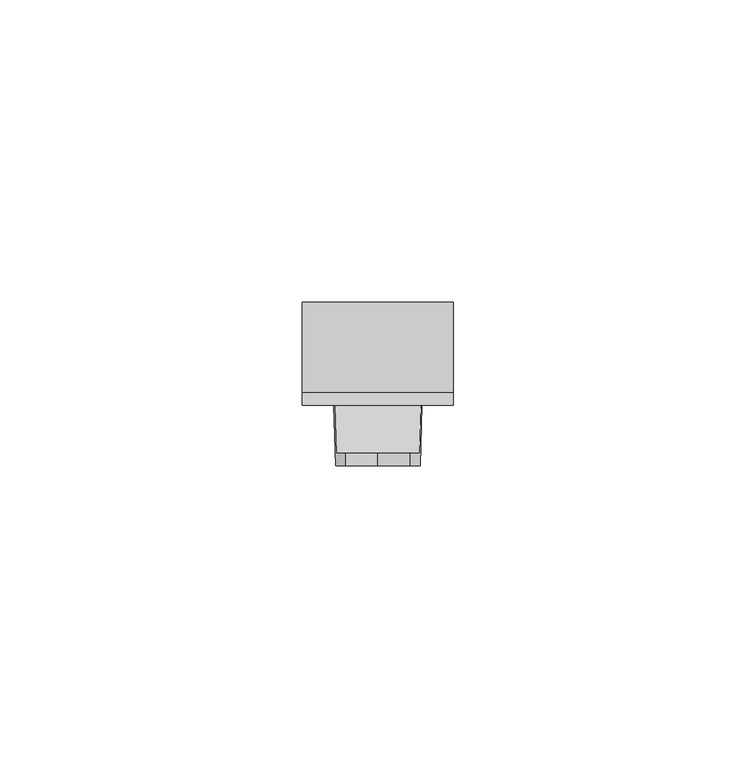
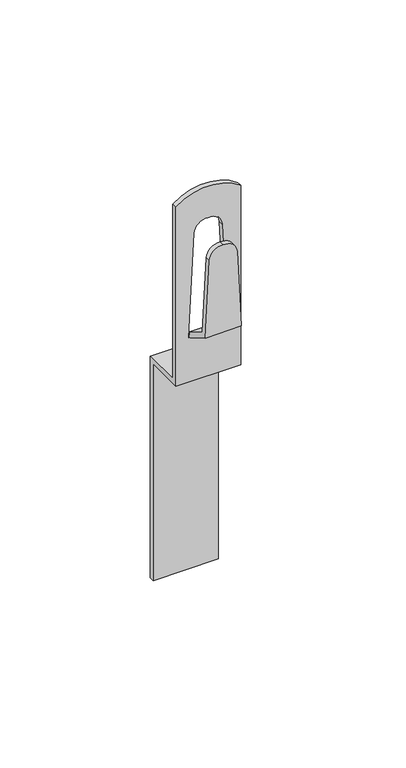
"""IFC4 building model written with IfcOpenShell, lengths in millimetres: proxy geometry, КНС_ДержательПолосыДляКонтураЗаземления _DKC : NE1002_Горячеоцинкованная сталь."""

from ifc_helpers import new_model, si_unit, frame, origin, place, context, project, spatial, polyline, circle_curve, source, transform, mapped, element, save
from ifc_brep_helpers import plane_surface, cylinder_surface, revolved_surface, advanced_brep


def security_devices_b61f97d0(model_context):
    return source(origin(), model_context, "Body", "AdvancedBrep", [
        advanced_brep(
        [(-12.5, 1.0, 160.874537), (12.5, 1.0, 160.874537), (12.5, 1.0, 90.0), (-12.5, 1.0, 90.0), (-5.3645288, 1.0, 147.6660817), (-7.5481556, 1.0, 106.0), (7.5481556, 1.0, 106.0), (5.3645288, 1.0, 147.6660817), (0.0, 1.0, 152.1674559), (-12.5, -1.0, 88.0), (12.5, -1.0, 88.0), (12.5, -1.0, 160.874537), (-12.5, -1.0, 160.874537), (-5.3645288, -1.0, 147.6660817), (0.0, -1.0, 152.1674559), (5.3645288, -1.0, 147.6660817), (7.5481556, -1.0, 106.0), (-7.5481556, -1.0, 106.0), (-12.5, 16.0, 90.0), (-12.5, 16.0, 0.0), (-12.5, 14.0, 0.0), (-12.5, 14.0, 88.0), (12.5, 14.0, 88.0), (12.5, 14.0, 0.0), (12.5, 16.0, 0.0), (12.5, 16.0, 90.0)],
        [
            (0, 1, circle_curve(frame((0.0, 1.0, 144.0), z_axis=(0.0, 1.0, 0.0), x_axis=(1.0, 0.0, 0.0)), 21.0)),
            (1, 2),
            (2, 3),
            (3, 0),
            (4, 5),
            (5, 6),
            (6, 7),
            (7, 8, circle_curve(frame((0.5834648, 1.0, 147.4155168), z_axis=(0.0, -1.0, 0.0), x_axis=(1.0, 0.0, 0.0)), 4.7876253)),
            (8, 4, circle_curve(frame((-0.5834648, 1.0, 147.4155168), z_axis=(0.0, -1.0, 0.0), x_axis=(1.0, 0.0, 0.0)), 4.7876253)),
            (9, 10),
            (10, 11),
            (11, 12, circle_curve(frame((0.0, -1.0, 144.0), z_axis=(0.0, -1.0, 0.0), x_axis=(1.0, 0.0, 0.0)), 21.0)),
            (12, 9),
            (13, 14, circle_curve(frame((-0.5834648, -1.0, 147.4155168), z_axis=(0.0, 1.0, 0.0), x_axis=(1.0, 0.0, 0.0)), 4.7876253)),
            (14, 15, circle_curve(frame((0.5834648, -1.0, 147.4155168), z_axis=(0.0, 1.0, 0.0), x_axis=(1.0, 0.0, 0.0)), 4.7876253)),
            (15, 16),
            (16, 17),
            (17, 13),
            (3, 18),
            (18, 19),
            (19, 20),
            (20, 21),
            (21, 9),
            (12, 0),
            (1, 11),
            (10, 22),
            (22, 23),
            (23, 24),
            (24, 25),
            (25, 2),
            (8, 14),
            (13, 4),
            (7, 15),
            (6, 16),
            (5, 17),
            (23, 20),
            (19, 24),
            (18, 25),
            (21, 22),
        ],
        [
            plane_surface(frame((-12.5, 1.0, 100.0), z_axis=(0.0, 1.0, 0.0), x_axis=(0.0, 0.0, 1.0))),
            plane_surface(frame((-12.5, -1.0, 100.0), z_axis=(0.0, -1.0, 0.0), x_axis=(0.0, 0.0, -1.0))),
            plane_surface(frame((-12.5, -1.0, 160.874537), z_axis=(-1.0, 0.0, 0.0), x_axis=(0.0, 1.0, 0.0))),
            plane_surface(frame((12.5, -1.0, 90.0), z_axis=(1.0, 0.0, 0.0), x_axis=(0.0, 1.0, 0.0))),
            cylinder_surface(frame((0.0, 1.0, 144.0), z_axis=(0.0, -1.0, 0.0), x_axis=(1.0, 0.0, 0.0)), 21.0),
            revolved_surface(polyline([(4.2041605, 1.0, 147.4155168), (4.2041605, -1.0, 147.4155168)]), (-0.5834648, 0.0, 147.4155168), (0.0, 1.0, 0.0)),
            revolved_surface(polyline([(5.3710901, 1.0, 147.4155168), (5.3710901, -1.0, 147.4155168)]), (0.5834648, 0.0, 147.4155168), (0.0, 1.0, 0.0)),
            plane_surface(frame((5.3645288, -1.0, 147.6660817), z_axis=(-0.9986295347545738, 0.0, -0.05233595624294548), x_axis=(0.0, 1.0, 0.0))),
            plane_surface(frame((7.5481556, -1.0, 106.0), z_axis=(0.0, 0.0, 1.0), x_axis=(0.0, 1.0, 0.0))),
            plane_surface(frame((-7.5481556, -1.0, 106.0), z_axis=(0.9986295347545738, 0.0, -0.05233595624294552), x_axis=(0.0, 1.0, 0.0))),
            plane_surface(frame((12.5, 14.0, 0.0), z_axis=(0.0, 0.0, -1.0), x_axis=(-1.0, 0.0, 0.0))),
            plane_surface(frame((12.5, 16.0, 0.0), z_axis=(0.0, 1.0, 0.0), x_axis=(-1.0, 0.0, 0.0))),
            plane_surface(frame((12.5, 16.0, 90.0), z_axis=(0.0, 0.0, 1.0), x_axis=(-1.0, 0.0, 0.0))),
            plane_surface(frame((12.5, -1.0, 88.0), z_axis=(0.0, 0.0, -1.0), x_axis=(-1.0, 0.0, 0.0))),
            plane_surface(frame((12.5, 14.0, 88.0), z_axis=(0.0, -1.0, 0.0), x_axis=(-1.0, 0.0, 0.0))),
        ],
        [
            (0, [[1, 2, 3, 4], [5, 6, 7, 8, 9]]),
            (1, [[10, 11, 12, 13], [14, 15, 16, 17, 18]]),
            (2, [[-4, 19, 20, 21, 22, 23, -13, 24]]),
            (3, [[-2, 25, -11, 26, 27, 28, 29, 30]]),
            (4, [[-1, -24, -12, -25]]),
            (5, [[-9, 31, -14, 32]]),
            (6, [[-8, 33, -15, -31]]),
            (7, [[-7, 34, -16, -33]]),
            (8, [[-6, 35, -17, -34]]),
            (9, [[-5, -32, -18, -35]]),
            (10, [[-28, 36, -21, 37]]),
            (11, [[-29, -37, -20, 38]]),
            (12, [[-38, -19, -3, -30]]),
            (13, [[-26, -10, -23, 39]]),
            (14, [[-27, -39, -22, -36]]),
        ],
    ),
        advanced_brep(
        [(5.3645288, -11.0, 142.6660817), (0.0, -11.0, 147.1674559), (-5.3645288, -11.0, 142.6660817), (-6.9835402, -11.0, 111.7735027), (6.9835402, -11.0, 111.7735027), (7.2861167, -1.0, 106.0), (-7.2861167, -1.0, 106.0), (-7.1650861, -1.0, 108.3094011), (7.1650861, -1.0, 108.3094011), (-5.3645288, -9.0, 142.6660817), (-6.9230249, -9.0, 112.9282032), (6.9230249, -9.0, 112.9282032), (5.3645288, -9.0, 142.6660817), (0.0, -9.0, 147.1674559)],
        [
            (0, 1, circle_curve(frame((0.5834648, -11.0, 142.4155168), z_axis=(0.0, -1.0, 0.0), x_axis=(1.0, 0.0, 0.0)), 4.7876253)),
            (1, 2, circle_curve(frame((-0.5834648, -11.0, 142.4155168), z_axis=(0.0, -1.0, 0.0), x_axis=(1.0, 0.0, 0.0)), 4.7876253)),
            (2, 3),
            (3, 4),
            (4, 0),
            (5, 6),
            (6, 7),
            (7, 8),
            (8, 5),
            (2, 9),
            (9, 10),
            (10, 7),
            (6, 3),
            (4, 5),
            (8, 11),
            (11, 12),
            (12, 0),
            (12, 13, circle_curve(frame((0.5834648, -9.0, 142.4155168), z_axis=(0.0, -1.0, 0.0), x_axis=(1.0, 0.0, 0.0)), 4.7876253)),
            (13, 1),
            (13, 9, circle_curve(frame((-0.5834648, -9.0, 142.4155168), z_axis=(0.0, -1.0, 0.0), x_axis=(1.0, 0.0, 0.0)), 4.7876253)),
            (10, 11),
        ],
        [
            plane_surface(frame((-7.2867387, -11.0, 105.9881309), z_axis=(0.0, -1.0, 0.0), x_axis=(-0.05233595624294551, 0.0, -0.9986295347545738))),
            plane_surface(frame((-7.2867387, -1.0, 105.9881309), z_axis=(0.0, 1.0, 0.0), x_axis=(0.05233595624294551, 0.0, 0.9986295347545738))),
            plane_surface(frame((-5.3645288, -11.0, 142.6660817), z_axis=(-0.9986295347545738, 0.0, 0.05233595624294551), x_axis=(0.0, 1.0, 0.0))),
            plane_surface(frame((7.2861167, -11.0, 106.0), z_axis=(0.9986295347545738, 0.0, 0.0523359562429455), x_axis=(0.0, 1.0, 0.0))),
            cylinder_surface(frame((0.5834648, -1.0, 142.4155168), z_axis=(0.0, -1.0, 0.0), x_axis=(1.0, 0.0, 0.0)), 4.7876253),
            cylinder_surface(frame((-0.5834648, -1.0, 142.4155168), z_axis=(0.0, -1.0, 0.0), x_axis=(1.0, 0.0, 0.0)), 4.7876253),
            plane_surface(frame((12.5, -1.0, 106.0), z_axis=(0.0, -0.5000000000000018, -0.8660254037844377), x_axis=(-1.0, 0.0, 0.0))),
            plane_surface(frame((12.5, -9.0, 112.9282032), z_axis=(0.0, 0.500000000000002, 0.8660254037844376), x_axis=(-1.0, 0.0, 0.0))),
            plane_surface(frame((12.5, -9.0, 152.1674559), z_axis=(0.0, 1.0, 0.0), x_axis=(-1.0, 0.0, 0.0))),
        ],
        [
            (0, [[1, 2, 3, 4, 5]]),
            (1, [[6, 7, 8, 9]]),
            (2, [[-3, 10, 11, 12, -7, 13]]),
            (3, [[-5, 14, -9, 15, 16, 17]]),
            (4, [[-1, -17, 18, 19]]),
            (5, [[-2, -19, 20, -10]]),
            (6, [[-4, -13, -6, -14]]),
            (7, [[21, -15, -8, -12]]),
            (8, [[-21, -11, -20, -18, -16]]),
        ],
    ),
    ])


if __name__ == "__main__":
    model = new_model("IFC4")
    model_context = context("Model", 3, world=origin())
    ifc_project = project(units=[si_unit("LENGTHUNIT", "METRE", prefix="MILLI")], contexts=[model_context])
    site = spatial("IfcSite", under=ifc_project)
    building = spatial("IfcBuilding", under=site)
    placement = place(None, origin())
    security_devices_shape = security_devices_b61f97d0(model_context)
    element("IfcBuildingElementProxy", 1, Name="КНС_ДержательПолосыДляКонтураЗаземления _DKC : NE1002_Горячеоцинкованная сталь", ObjectType="КНС_ДержательПолосыДляКонтураЗаземления _DKC : NE1002_Горячеоцинкованная сталь", at=placement, inside=building, context=model_context, shape_type="MappedRepresentation", body=[
        mapped(security_devices_shape, transform((0.0, 0.0, 0.0), x_axis=(1.0, 0.0, 0.0), y_axis=(0.0, 1.0, 0.0), z_axis=(0.0, 0.0, 1.0))),
    ])
    save(model, "model.ifc")
